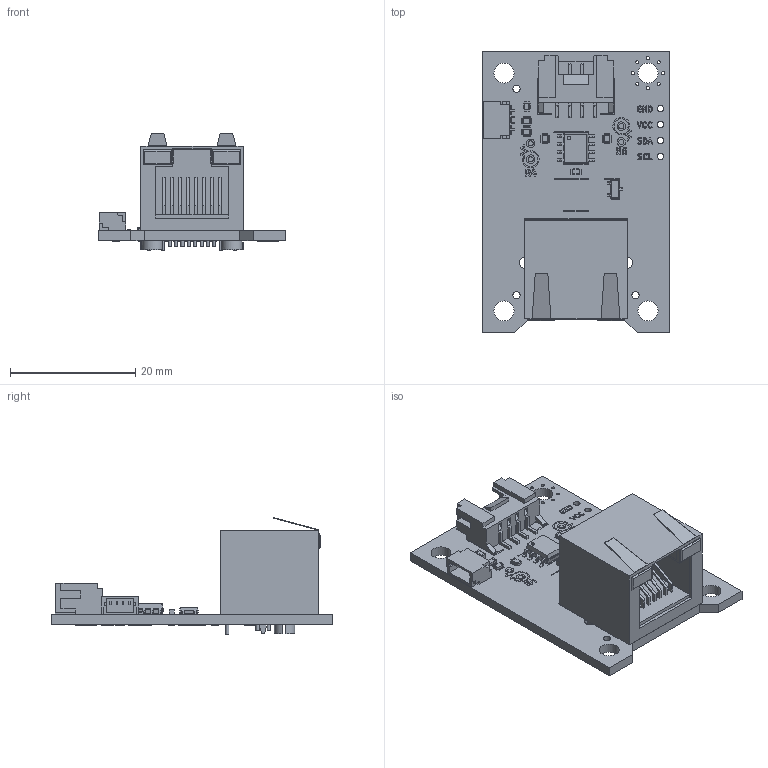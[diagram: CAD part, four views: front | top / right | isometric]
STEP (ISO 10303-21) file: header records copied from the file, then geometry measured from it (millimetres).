
FILE_DESCRIPTION(('FreeCAD Model'),'2;1');
FILE_NAME('Open CASCADE Shape Model','2022-10-15T23:34:37',(''),(''), 'Open CASCADE STEP processor 7.6','FreeCAD','Unknown');
FILE_SCHEMA(('AUTOMOTIVE_DESIGN { 1 0 10303 214 1 1 1 1 }'));
Length unit declared in the file: millimetre
Products named in the file (18): i2c-ext-mod; Board_Geoms_e933; Pcb_e933; botSilks_2400; topSilks_29d4; Step_Models_e933; Top_e933; U1_SOIC_8_39x49mm_P127mm_fa28f5fa0e5d; C1_C_0603_1608Metric_5b778e906d64; R2_R_0603_1608Metric_9cb6bfc7bed8; J1_Grove Connector (flat)_2e27e39de15f; J6_Unnamed_5c1b7deb612b; RJ45_Amphenol_RJHSE538X; RJ45_Amphenol_RJHSE538X001; RJ45_Amphenol_RJHSE538X002; RJ45_Amphenol_RJHSE538X006; D1_SOT_23_e430b914d81b; J3_SM04B-SRSS_6481b6d73ed2
Assembly tree (24 placements, depth 6):
  i2c-ext-mod
    Board_Geoms_e933
      Pcb_e933
      botSilks_2400
      topSilks_29d4
    Step_Models_e933
      Top_e933
        U1_SOIC_8_39x49mm_P127mm_fa28f5fa0e5d
        C1_C_0603_1608Metric_5b778e906d64  x2
        R2_R_0603_1608Metric_9cb6bfc7bed8  x4
        J1_Grove Connector (flat)_2e27e39de15f
        J6_Unnamed_5c1b7deb612b
          RJ45_Amphenol_RJHSE538X
          RJ45_Amphenol_RJHSE538X001
          RJ45_Amphenol_RJHSE538X002
          RJ45_Amphenol_RJHSE538X006
            RJ45_Amphenol_RJHSE538X
            RJ45_Amphenol_RJHSE538X001
            RJ45_Amphenol_RJHSE538X002
        D1_SOT_23_e430b914d81b
        J3_SM04B-SRSS_6481b6d73ed2
Bounding box: 30 x 45 x 18.68 mm (x, y, z)
Volume: 7177.5 mm3; surface area: 8624.3 mm2
Topology: 17 solids, 132 shells, 1163 faces, 7704 edges, 6766 vertices
Faces by surface type: plane 912, cylinder 192, bspline 59
Full cylindrical faces by diameter (mm): 0.5 x32, 0.6 x1, 0.813 x4, 0.914 x12, 1.02 x4, 1.152 x3, 1.8 x2, 3.2 x4, 3.25 x6
Entity records: 70660 total; most frequent: CARTESIAN_POINT 14468, ORIENTED_EDGE 9052, DIRECTION 8958, EDGE_CURVE 7010, LINE 6654, VECTOR 6654, VERTEX_POINT 6298, AXIS2_PLACEMENT_3D 1152
